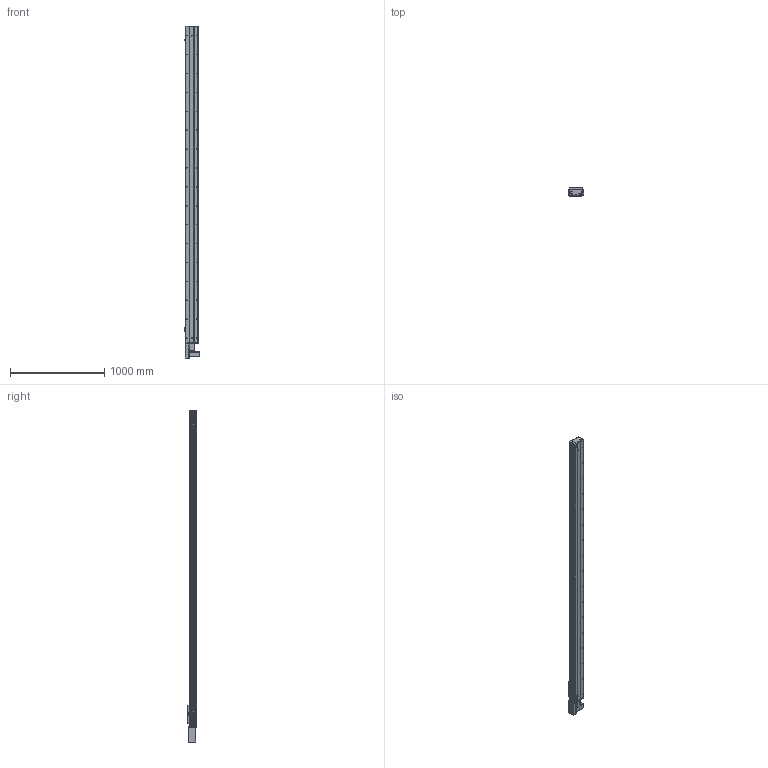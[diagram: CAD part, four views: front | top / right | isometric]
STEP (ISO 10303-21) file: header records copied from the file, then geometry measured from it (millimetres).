
FILE_DESCRIPTION (( 'STEP AP203' ), '1' );
FILE_NAME ('Y135CB-D90-S3050-BR-P400W.STEP', '2020-02-18T03:21:50', ( '微软用户' ), ( '微软中国' ), 'SwSTEP 2.0', 'SolidWorks 2017', '' );
FILE_SCHEMA (( 'CONFIG_CONTROL_DESIGN' ));
Length unit declared in the file: millimetre
Products named in the file (18): Y10B-耜蚾蟀諉啣----; Y100-135俋离換覜ん--; Y俋欶BR----; Y135C-陔俋离換覜結え-; 0B-埴倛裔啣; 5C--俋欶; 0B-源倛裔啣; C-雄赽釱--; 0B-萇儂楊擘啣; Y10B--々湍喘謫眊--666; san松下电机400不带刹车----; Y135CB-耜裔; Y135CB-D90-S3050-BR-P400W; 5CB --掛极耜裔啣-; 135CB---遴掛极.-; C-詩湍揤踡え-陔; 35CB---喘謫眊楊擘啣; 135CB--詩湍-CE
Assembly tree (21 placements, depth 2):
  Y135CB-D90-S3050-BR-P400W
    Y135CB-耜裔
    135CB---遴掛极.-
    35CB---喘謫眊楊擘啣
    Y10B-耜蚾蟀諉啣----
    Y俋欶BR----
    0B-埴倛裔啣
    0B-源倛裔啣
    0B-萇儂楊擘啣
    san松下电机400不带刹车----
    5CB --掛极耜裔啣-  x2
    C-詩湍揤踡え-陔  x2
    135CB--詩湍-CE
    Y100-135俋离換覜ん--  x3
    Y135C-陔俋离換覜結え-
    5C--俋欶
    C-雄赽釱--
    Y10B--々湍喘謫眊--666
Bounding box: 167.5 x 91 x 3514.5 mm (x, y, z)
Volume: 9711027.3 mm3; surface area: 3854470.2 mm2
Topology: 21 solids, 21 shells, 985 faces, 2707 edges, 1794 vertices
Faces by surface type: cylinder 511, plane 458, cone 16
Entity records: 31361 total; most frequent: CARTESIAN_POINT 5252, DIRECTION 5211, ORIENTED_EDGE 4890, EDGE_CURVE 2445, AXIS2_PLACEMENT_3D 1913, VERTEX_POINT 1622, LINE 1385, VECTOR 1385
